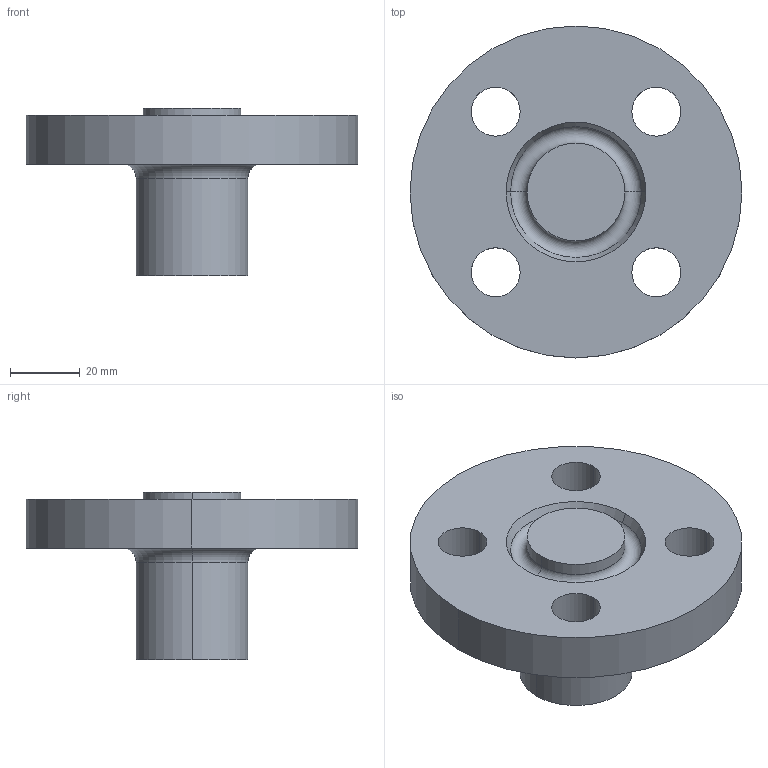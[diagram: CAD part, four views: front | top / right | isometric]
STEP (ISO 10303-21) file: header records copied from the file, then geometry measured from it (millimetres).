
FILE_DESCRIPTION (( 'STEP AP214' ), '1' );
FILE_NAME ('PN40 DN15 Type 21(i) - Type H Face.STEP', '2018-12-29T14:27:38', ( '' ), ( '' ), 'SwSTEP 2.0', 'SolidWorks 2019', '' );
FILE_SCHEMA (( 'AUTOMOTIVE_DESIGN' ));
Length unit declared in the file: millimetre
Products named in the file (1): PN40 DN15 Type 21(i) - Type H Face
Bounding box: 95 x 95 x 48 mm (x, y, z)
Volume: 116022.4 mm3; surface area: 23335.1 mm2
Topology: 1 solids, 1 shells, 24 faces, 54 edges, 34 vertices
Faces by surface type: cylinder 14, torus 4, plane 4, cone 2
Entity records: 738 total; most frequent: DIRECTION 142, CARTESIAN_POINT 113, ORIENTED_EDGE 108, AXIS2_PLACEMENT_3D 63, EDGE_CURVE 54, CIRCLE 38, EDGE_LOOP 34, VERTEX_POINT 34
